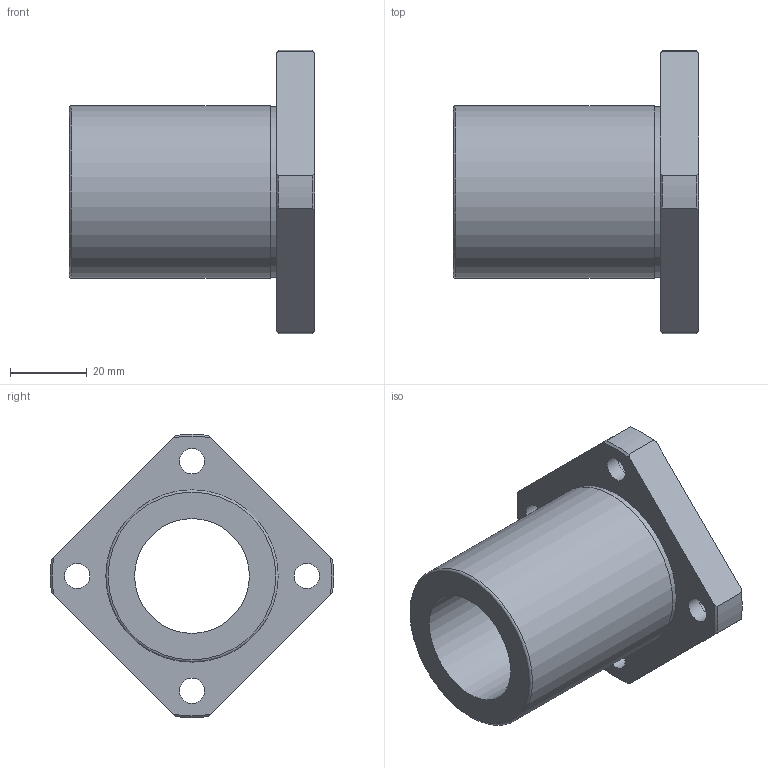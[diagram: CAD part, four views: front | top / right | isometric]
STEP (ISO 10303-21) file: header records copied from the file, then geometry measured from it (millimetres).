
FILE_DESCRIPTION(('STEP AP203'),'1');
FILE_NAME('//192.168.1.1/share/s-4 技術開発/s-4-4_CAD/s-4-4-3_見直し済み/002 修正済み/NF-V/NF-30TVUU.step','2022-03-08T06:41:10',(' '),(' '),'Spatial InterOp 3D',' ',' ');
FILE_SCHEMA(('CONFIG_CONTROL_DESIGN'));
Length unit declared in the file: millimetre
Products named in the file (1): 1
Bounding box: 64 x 73.95 x 73.95 mm (x, y, z)
Volume: 70675.3 mm3; surface area: 21941.4 mm2
Topology: 1 solids, 1 shells, 36 faces, 91 edges, 63 vertices
Faces by surface type: cylinder 15, plane 12, cone 8, torus 1
Full cylindrical faces by diameter (mm): 6.6 x4, 11 x4, 30 x1, 44.4 x1, 45 x1
Entity records: 1026 total; most frequent: CARTESIAN_POINT 195, DIRECTION 168, ORIENTED_EDGE 142, AXIS2_PLACEMENT_3D 76, EDGE_CURVE 71, EDGE_LOOP 64, VERTEX_POINT 55, FACE_OUTER_BOUND 48
